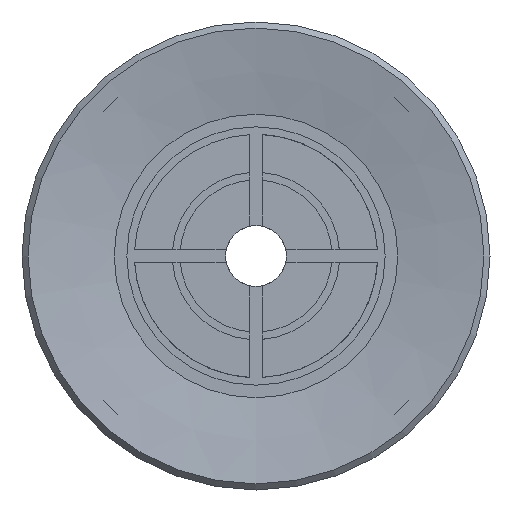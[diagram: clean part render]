
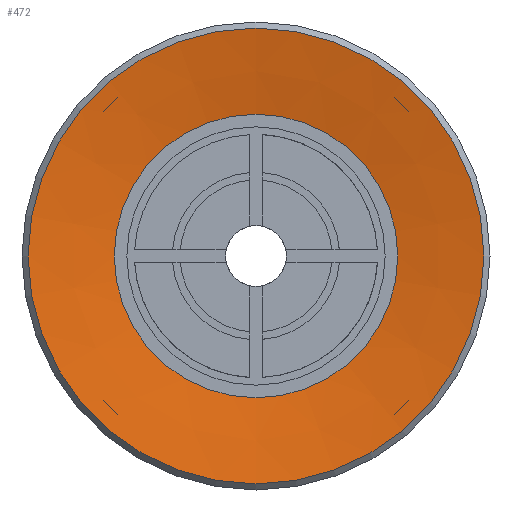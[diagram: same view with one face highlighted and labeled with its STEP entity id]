
A CAD part, front view. The second image highlights one B-rep face of the part: STEP entity #472.
In plain terms, the highlighted conical face has half-angle 80 degrees and reference radius 4.664 mm.
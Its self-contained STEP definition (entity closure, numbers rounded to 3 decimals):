
#472=ADVANCED_FACE('',(#713,#714),#715,.F.);
#713=FACE_BOUND('',#1048,.T.);
#714=FACE_OUTER_BOUND('',#1049,.T.);
#715=CONICAL_SURFACE('',#1050,4.664,1.396);
#1048=EDGE_LOOP('',(#1757));
#1049=EDGE_LOOP('',(#1758));
#1050=AXIS2_PLACEMENT_3D('',#1759,#1760,#1761);
#1757=ORIENTED_EDGE('',*,*,#2380,.F.);
#1758=ORIENTED_EDGE('',*,*,#2349,.T.);
#1759=CARTESIAN_POINT('',(0.0,0.5,0.0));
#1760=DIRECTION('',(-0.0,-1.0,0.));
#1761=DIRECTION('',(0.0,0.,-1.0));
#2349=EDGE_CURVE('',#2739,#2739,#2740,.T.);
#2380=EDGE_CURVE('',#2786,#2786,#2787,.T.);
#2739=VERTEX_POINT('',#3545);
#2740=CIRCLE('',#3546,7.5);
#2786=VERTEX_POINT('',#3643);
#2787=CIRCLE('',#3644,4.664);
#3545=CARTESIAN_POINT('',(0.0,0.,-7.5));
#3546=AXIS2_PLACEMENT_3D('',#4134,#4135,#4136);
#3643=CARTESIAN_POINT('',(0.0,0.5,-4.664));
#3644=AXIS2_PLACEMENT_3D('',#4171,#4172,#4173);
#4134=CARTESIAN_POINT('',(0.0,0.0,0.0));
#4135=DIRECTION('',(0.0,-1.0,0.));
#4136=DIRECTION('',(0.0,0.,-1.0));
#4171=CARTESIAN_POINT('',(0.0,0.5,0.0));
#4172=DIRECTION('',(0.0,-1.0,0.));
#4173=DIRECTION('',(0.0,0.,-1.0));
